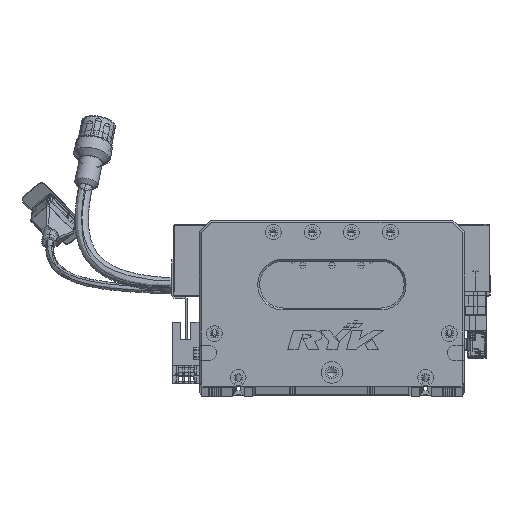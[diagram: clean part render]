
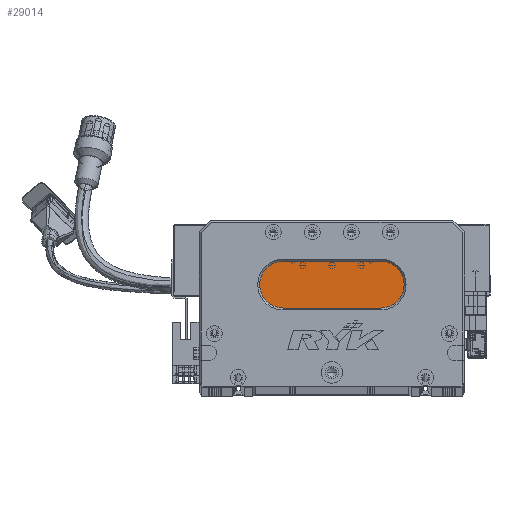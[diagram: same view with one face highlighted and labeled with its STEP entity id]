
A CAD part, top view. The second image highlights one B-rep face of the part: STEP entity #29014.
In plain terms, the highlighted planar face has unit normal (0, 0, 1) as drawn and (0, 0, -1) by its records, which use the part's own axes.
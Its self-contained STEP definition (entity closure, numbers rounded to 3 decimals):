
#182 = DIRECTION ( 'NONE',  ( 0., 0., -1. ) ) ;
#2689 = CARTESIAN_POINT ( 'NONE',  ( 93., 52., 13. ) ) ;
#15127 = CARTESIAN_POINT ( 'NONE',  ( 43., 64., 13. ) ) ;
#15131 = VERTEX_POINT ( 'NONE', #107961 ) ;
#18896 = EDGE_LOOP ( 'NONE', ( #97486, #96981, #85486, #47978, #127344 ) ) ;
#20850 = EDGE_CURVE ( 'NONE', #73088, #130597, #62087, .T. ) ;
#27385 = DIRECTION ( 'NONE',  ( 1., 0., 0. ) ) ;
#29014 = ADVANCED_FACE ( 'NONE', ( #45235 ), #83944, .T. ) ;
#30714 = CARTESIAN_POINT ( 'NONE',  ( 93., 40., 13. ) ) ;
#37970 = CARTESIAN_POINT ( 'NONE',  ( 93., 64., 13. ) ) ;
#39451 = DIRECTION ( 'NONE',  ( -1., 0., 0. ) ) ;
#42001 = EDGE_CURVE ( 'NONE', #15131, #95113, #79442, .T. ) ;
#45235 = FACE_OUTER_BOUND ( 'NONE', #18896, .T. ) ;
#47978 = ORIENTED_EDGE ( 'NONE', *, *, #98388, .T. ) ;
#48872 = LINE ( 'NONE', #37970, #85301 ) ;
#50134 = VERTEX_POINT ( 'NONE', #15127 ) ;
#50238 = EDGE_CURVE ( 'NONE', #50134, #15131, #48872, .T. ) ;
#50515 = DIRECTION ( 'NONE',  ( 0., 0., -1. ) ) ;
#53466 = DIRECTION ( 'NONE',  ( 0., 0., -1. ) ) ;
#58314 = DIRECTION ( 'NONE',  ( 0., 0., -1. ) ) ;
#60151 = AXIS2_PLACEMENT_3D ( 'NONE', #111013, #50515, #39451 ) ;
#62087 = CIRCLE ( 'NONE', #97830, 12. ) ;
#63612 = DIRECTION ( 'NONE',  ( -1., 0., 0. ) ) ;
#69889 = CARTESIAN_POINT ( 'NONE',  ( 31., 52., 13. ) ) ;
#70369 = EDGE_CURVE ( 'NONE', #95113, #73088, #128463, .T. ) ;
#73088 = VERTEX_POINT ( 'NONE', #104176 ) ;
#79442 = CIRCLE ( 'NONE', #60151, 12. ) ;
#83044 = CIRCLE ( 'NONE', #111520, 12. ) ;
#83944 = PLANE ( 'NONE',  #100968 ) ;
#85301 = VECTOR ( 'NONE', #27385, 1000. ) ;
#85486 = ORIENTED_EDGE ( 'NONE', *, *, #20850, .T. ) ;
#95113 = VERTEX_POINT ( 'NONE', #123195 ) ;
#96981 = ORIENTED_EDGE ( 'NONE', *, *, #70369, .T. ) ;
#97486 = ORIENTED_EDGE ( 'NONE', *, *, #42001, .T. ) ;
#97830 = AXIS2_PLACEMENT_3D ( 'NONE', #108218, #58314, #127691 ) ;
#98388 = EDGE_CURVE ( 'NONE', #130597, #50134, #83044, .T. ) ;
#98465 = VECTOR ( 'NONE', #112483, 1000. ) ;
#100968 = AXIS2_PLACEMENT_3D ( 'NONE', #2689, #53466, #63612 ) ;
#104176 = CARTESIAN_POINT ( 'NONE',  ( 43., 40., 13. ) ) ;
#107961 = CARTESIAN_POINT ( 'NONE',  ( 93., 64., 13. ) ) ;
#108218 = CARTESIAN_POINT ( 'NONE',  ( 43., 52., 13. ) ) ;
#111013 = CARTESIAN_POINT ( 'NONE',  ( 93., 52., 13. ) ) ;
#111520 = AXIS2_PLACEMENT_3D ( 'NONE', #120347, #182, #130477 ) ;
#112483 = DIRECTION ( 'NONE',  ( -1., 0., 0. ) ) ;
#120347 = CARTESIAN_POINT ( 'NONE',  ( 43., 52., 13. ) ) ;
#123195 = CARTESIAN_POINT ( 'NONE',  ( 93., 40., 13. ) ) ;
#127344 = ORIENTED_EDGE ( 'NONE', *, *, #50238, .T. ) ;
#127691 = DIRECTION ( 'NONE',  ( -1., 0., 0. ) ) ;
#128463 = LINE ( 'NONE', #30714, #98465 ) ;
#130477 = DIRECTION ( 'NONE',  ( -1., 0., 0. ) ) ;
#130597 = VERTEX_POINT ( 'NONE', #69889 ) ;
